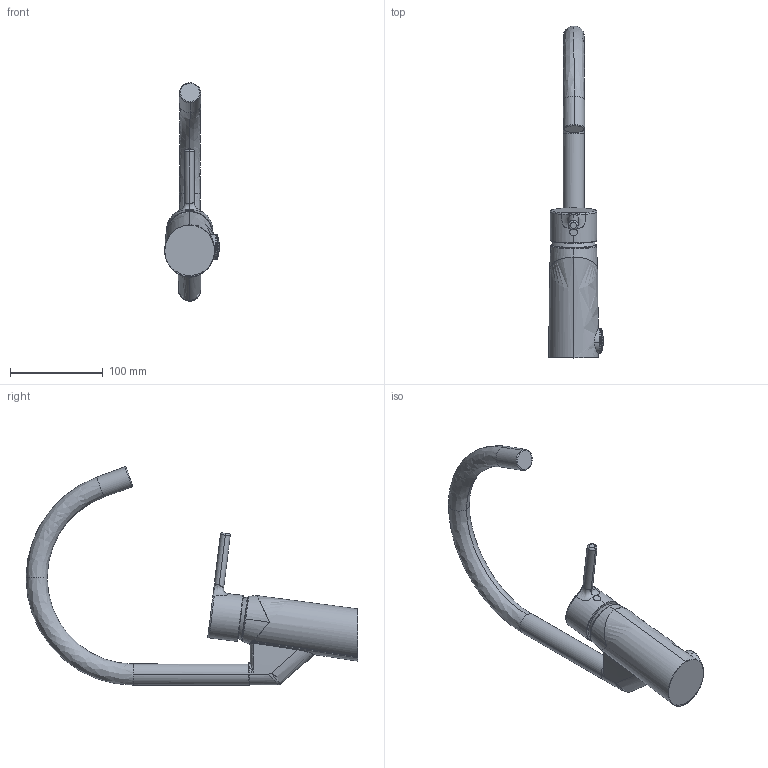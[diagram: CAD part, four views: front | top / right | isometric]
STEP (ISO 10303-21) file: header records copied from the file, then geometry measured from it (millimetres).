
FILE_DESCRIPTION (( 'STEP AP203' ), '1' );
FILE_NAME ('2839FN(2023)+2839FN-107(2023).STEP', '2023-06-30T06:46:21', ( '' ), ( '' ), 'SwSTEP 2.0', 'SolidWorks 2016', '' );
FILE_SCHEMA (( 'CONFIG_CONTROL_DESIGN' ));
Products named in the file (1): 2839FN(2023)+2839FN-107(2023)
Bounding box: 58.86 x 357.42 x 235.14 mm (x, y, z)
Volume: 580872.5 mm3; surface area: 78282.2 mm2
Topology: 1 solids, 4 shells, 225 faces, 562 edges, 353 vertices
Faces by surface type: bspline 150, cylinder 31, plane 22, cone 13, torus 8, sphere 1
Entity records: 87708 total; most frequent: CARTESIAN_POINT 83541, ORIENTED_EDGE 1120, EDGE_CURVE 560, DIRECTION 429, B_SPLINE_CURVE_WITH_KNOTS 382, VERTEX_POINT 352, EDGE_LOOP 234, FACE_OUTER_BOUND 225
